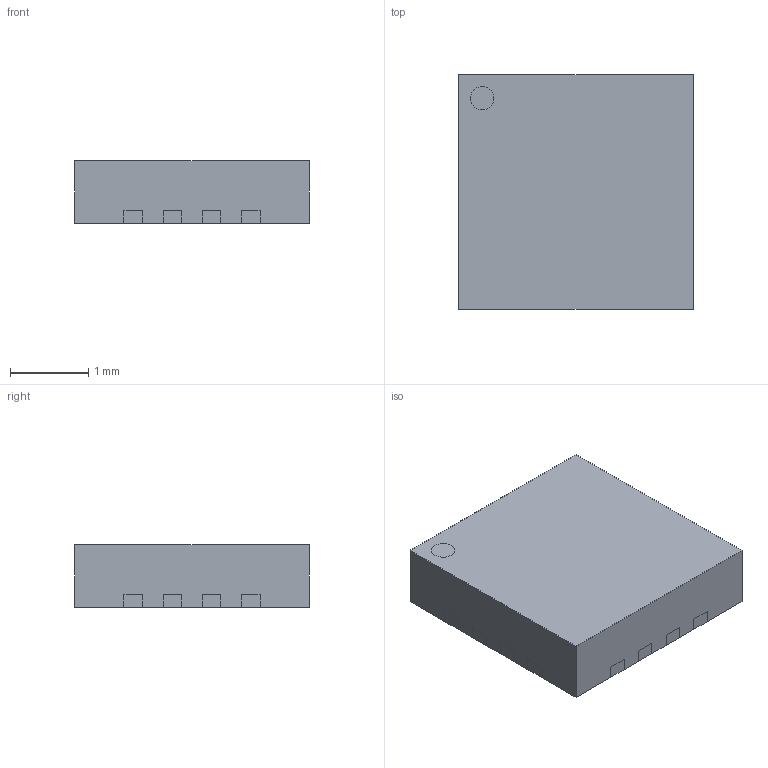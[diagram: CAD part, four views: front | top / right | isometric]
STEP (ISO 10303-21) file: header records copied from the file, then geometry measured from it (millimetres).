
/*
Copyright (C) 2026, KiCAD
This work is licensed under the
[Creative Commons CC-BY-SA 4.0 License](https://creativecommons.org/licenses/by-sa/4.0/legalcode),
with the following exception:
To the extent that the creation of electronic designs that use 'Licensed Material' can be
considered to be 'Adapted Material', then the copyright holder waives article 3 of the license
with respect to these designs and any generated files which use data provided as part of the
'Licensed Material'.
You are free to use the library data in your own projects without the obligation to share your
project files under this or any other license agreement. However, if you wish to distribute
these libraries, or parts thereof (including in modified form) as a collection then the exception
above does not apply. Please refer to
https://gitlab.com/kicad/libraries/kicad-packages3D/-/blob/master/LICENSE.md for further clarification
of the exception.
Disclaimer of Warranties and Limitation of Liability.
These libraries are provided in the hope that they will be useful, but are provided without warranty of any kind, express or implied.
*/
FILE_DESCRIPTION(/* description */ ('model of WQFN-16-1EP_3x3mm_P0.5mm_EP1.68x1.68mm'),/* implementation_level */ '2;1');
FILE_NAME(/* name */ 'WQFN-16-1EP_3x3mm_P0.5mm_EP1.68x1.68mm.step',/* time_stamp */ '1970-01-01T00:00:00',/* author */ ('KiCAD','kicad'),/* organization */ ('OCCT'),/* preprocessor_version */ '',/* originating_system */ 'KiCAD',/* authorisation */ '');
FILE_SCHEMA(('AUTOMOTIVE_DESIGN { 1 0 10303 214 1 1 1 1 }'));
Length unit declared in the file: millimetre
Products named in the file (1): WQFN-16-1EP_3x3mm_P0.5mm_EP1.68x1.68mm
Bounding box: 3 x 3 x 0.8 mm (x, y, z)
Volume: 7.2 mm3; surface area: 27.6 mm2
Topology: 1 solids, 1 shells, 40 faces, 145 edges, 109 vertices
Faces by surface type: plane 40
Entity records: 1116 total; most frequent: ORIENTED_EDGE 252, EDGE_CURVE 145, CARTESIAN_POINT 144, LINE 112, VERTEX_POINT 109, AXIS2_PLACEMENT_3D 58, FACE_BOUND 42, EDGE_LOOP 42
